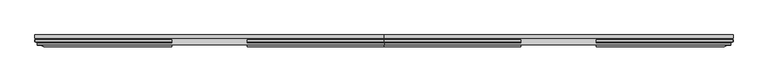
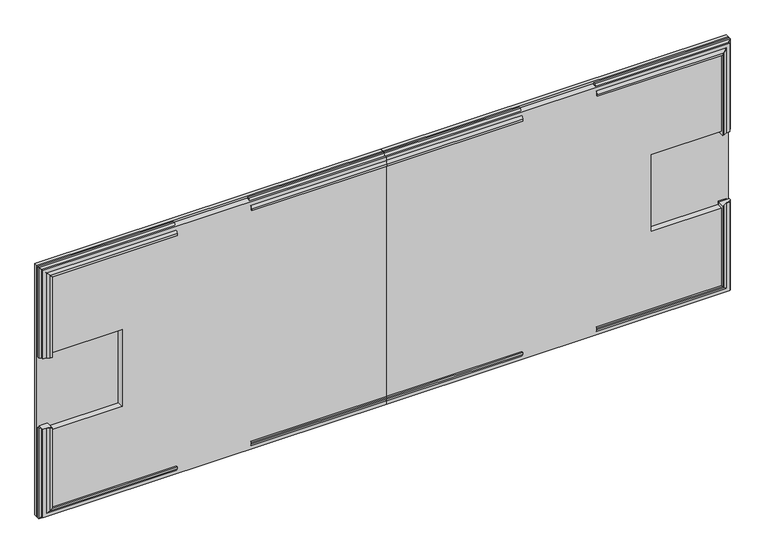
"""IFC4 building model written with IfcOpenShell, lengths in millimetres: proxy geometry, IMPRESS^TABLE 4_2 PC TOP PWR DRAWERS-TOP PARTS SOLID."""

from ifc_helpers import new_model, si_unit, frame, origin, place, context, project, spatial, polyline, outline, extrude, faceted_brep, source, transform, mapped, element, save


def generic_models_06f029d5(model_context):
    return source(origin(), model_context, "Body", "SolidModel", [
        extrude(outline(polyline([(3962.4, 0.0), (1981.2, 0.0), (1981.2, 19.05), (3962.4, 19.05), (3962.4, 0.0)])), frame((0.0, 0.0, -1524.0), z_axis=(0.0, 0.0, 1.0), x_axis=(1.0, 0.0, 0.0)), (0.0, 0.0, 1.0), 1524.0),
        extrude(outline(polyline([(-19.05, -1524.0), (-47.625, -1474.5066482), (-47.625, -1463.675), (-9.525, -1463.675), (-9.525, -1524.0), (-19.05, -1524.0)])), frame((1981.2, 0.0, 0.0), z_axis=(1.0, 0.0, 0.0), x_axis=(0.0, 1.0, 0.0)), (0.0, 0.0, 1.0), 777.08125),
        faceted_brep([(3185.31875, -47.625, -1463.675), (3902.075, -47.625, -1463.675), (3902.075, -9.525, -1463.675), (3185.31875, -9.525, -1463.675), (3185.31875, -9.525, -1524.0), (3962.4, -9.525, -1524.0), (3185.31875, -47.625, -1474.5066482), (3912.9066482, -47.625, -1474.5066482), (3185.31875, -19.05, -1524.0), (3962.4, -19.05, -1524.0)], [[[0, 1, 2, 3]], [[4, 3, 2, 5]], [[0, 6, 7, 1]], [[8, 4, 5, 9]], [[6, 8, 9, 7]], [[7, 9, 5, 2, 1]], [[3, 4, 8, 6, 0]]]),
        extrude(outline(polyline([(-1511.3, 12.7), (-1511.3, 1981.2), (-12.7, 1981.2), (-12.7, 12.7), (-548.48125, 12.7), (-548.48125, 60.325), (-528.6375, 60.325), (-528.6375, 466.725), (-995.3625, 466.725), (-995.3625, 60.325), (-975.51875, 60.325), (-975.51875, 12.7), (-1511.3, 12.7)])), frame((0.0, -38.1, 0.0), z_axis=(0.0, 1.0, 0.0), x_axis=(0.0, 0.0, 1.0)), (0.0, 0.0, 1.0), 38.1),
        faceted_brep([(0.0, -9.525, -548.48125), (60.325, -9.525, -548.48125), (60.325, -47.625, -548.48125), (49.4933518, -47.625, -548.48125), (0.0, -19.05, -548.48125), (60.325, -9.525, -60.325), (60.325, -47.625, -60.325), (0.0, -9.525, 0.0), (49.4933518, -47.625, -49.4933518), (0.0, -19.05, 0.0)], [[[0, 1, 2, 3, 4]], [[1, 5, 6, 2]], [[1, 0, 7, 5]], [[3, 2, 6, 8]], [[0, 4, 9, 7]], [[4, 3, 8, 9]], [[9, 8, 6, 5, 7]]]),
        faceted_brep([(60.325, -47.625, -975.51875), (60.325, -47.625, -1463.675), (60.325, -9.525, -1463.675), (60.325, -9.525, -975.51875), (0.0, -9.525, -975.51875), (0.0, -9.525, -1524.0), (49.4933518, -47.625, -975.51875), (49.4933518, -47.625, -1474.5066482), (0.0, -19.05, -975.51875), (0.0, -19.05, -1524.0)], [[[0, 1, 2, 3]], [[4, 3, 2, 5]], [[0, 6, 7, 1]], [[8, 4, 5, 9]], [[6, 8, 9, 7]], [[7, 9, 5, 2, 1]], [[3, 4, 8, 6, 0]]]),
        faceted_brep([(3185.31875, -47.625, -49.4933518), (3185.31875, -19.05, 0.0), (3185.31875, -9.525, 0.0), (3185.31875, -9.525, -60.325), (3185.31875, -47.625, -60.325), (3962.4, -19.05, 0.0), (3962.4, -9.525, 0.0), (3912.9066482, -47.625, -49.4933518), (3902.075, -47.625, -60.325), (3902.075, -9.525, -60.325)], [[[0, 1, 2, 3, 4]], [[2, 1, 5, 6]], [[1, 0, 7, 5]], [[0, 4, 8, 7]], [[3, 2, 6, 9]], [[3, 9, 8, 4]], [[5, 7, 8, 9, 6]]]),
        extrude(outline(polyline([(-47.625, -49.4933518), (-19.05, 0.0), (-9.525, 0.0), (-9.525, -60.325), (-47.625, -60.325), (-47.625, -49.4933518)])), frame((1981.2, 0.0, 0.0), z_axis=(1.0, 0.0, 0.0), x_axis=(0.0, 1.0, 0.0)), (0.0, 0.0, 1.0), 777.08125),
        extrude(outline(polyline([(-9.525, 0.0), (-9.525, -60.325), (-47.625, -60.325), (-47.625, -49.4933518), (-19.05, 0.0), (-9.525, 0.0)])), frame((1204.11875, 0.0, 0.0), z_axis=(1.0, 0.0, 0.0), x_axis=(0.0, 1.0, 0.0)), (0.0, 0.0, 1.0), 777.08125),
        faceted_brep([(777.08125, -47.625, -60.325), (60.325, -47.625, -60.325), (60.325, -9.525, -60.325), (777.08125, -9.525, -60.325), (777.08125, -9.525, 0.0), (0.0, -9.525, 0.0), (777.08125, -47.625, -49.4933518), (49.4933518, -47.625, -49.4933518), (777.08125, -19.05, 0.0), (0.0, -19.05, 0.0)], [[[0, 1, 2, 3]], [[4, 3, 2, 5]], [[0, 6, 7, 1]], [[8, 4, 5, 9]], [[6, 8, 9, 7]], [[7, 9, 5, 2, 1]], [[3, 4, 8, 6, 0]]]),
        faceted_brep([(777.08125, -9.525, -1524.0), (777.08125, -9.525, -1463.675), (777.08125, -47.625, -1463.675), (777.08125, -47.625, -1474.5066482), (777.08125, -19.05, -1524.0), (0.0, -9.525, -1524.0), (60.325, -9.525, -1463.675), (60.325, -47.625, -1463.675), (49.4933518, -47.625, -1474.5066482), (0.0, -19.05, -1524.0)], [[[0, 1, 2, 3, 4]], [[1, 0, 5, 6]], [[1, 6, 7, 2]], [[3, 2, 7, 8]], [[0, 4, 9, 5]], [[4, 3, 8, 9]], [[9, 8, 7, 6, 5]]]),
        extrude(outline(polyline([(-9.525, -1463.675), (-9.525, -1524.0), (-19.05, -1524.0), (-47.625, -1474.5066482), (-47.625, -1463.675), (-9.525, -1463.675)])), frame((1204.11875, 0.0, 0.0), z_axis=(1.0, 0.0, 0.0), x_axis=(0.0, 1.0, 0.0)), (0.0, 0.0, 1.0), 777.08125),
        faceted_brep([(3912.9066482, -47.625, -975.51875), (3962.4, -19.05, -975.51875), (3962.4, -9.525, -975.51875), (3902.075, -9.525, -975.51875), (3902.075, -47.625, -975.51875), (3962.4, -19.05, -1524.0), (3962.4, -9.525, -1524.0), (3912.9066482, -47.625, -1474.5066482), (3902.075, -9.525, -1463.675), (3902.075, -47.625, -1463.675)], [[[0, 1, 2, 3, 4]], [[2, 1, 5, 6]], [[1, 0, 7, 5]], [[3, 2, 6, 8]], [[0, 4, 9, 7]], [[3, 8, 9, 4]], [[5, 7, 9, 8, 6]]]),
        faceted_brep([(3962.4, -19.05, -548.48125), (3962.4, -9.525, -548.48125), (3962.4, -9.525, 0.0), (3962.4, -19.05, 0.0), (3912.9066482, -47.625, -548.48125), (3912.9066482, -47.625, -49.4933518), (3902.075, -9.525, -548.48125), (3902.075, -9.525, -60.325), (3902.075, -47.625, -548.48125), (3902.075, -47.625, -60.325)], [[[0, 1, 2, 3]], [[4, 0, 3, 5]], [[1, 6, 7, 2]], [[8, 4, 5, 9]], [[8, 9, 7, 6]], [[5, 3, 2, 7, 9]], [[0, 4, 8, 6, 1]]]),
        extrude(outline(polyline([(-12.7, 3949.7), (-12.7, 1981.2), (-1511.3, 1981.2), (-1511.3, 3949.7), (-975.51875, 3949.7), (-975.51875, 3902.075), (-995.3625, 3902.075), (-995.3625, 3495.675), (-528.6375, 3495.675), (-528.6375, 3902.075), (-548.48125, 3902.075), (-548.48125, 3949.7), (-12.7, 3949.7)])), frame((0.0, -38.1, 0.0), z_axis=(0.0, 1.0, 0.0), x_axis=(0.0, 0.0, 1.0)), (0.0, 0.0, 1.0), 38.1),
        extrude(outline(polyline([(1981.2, 0.0), (0.0, 0.0), (0.0, 19.05), (1981.2, 19.05), (1981.2, 0.0)])), frame((0.0, 0.0, -1524.0), z_axis=(0.0, 0.0, 1.0), x_axis=(1.0, 0.0, 0.0)), (0.0, 0.0, 1.0), 1524.0),
    ])


if __name__ == "__main__":
    model = new_model("IFC4")
    model_context = context("Model", 3, world=origin())
    ifc_project = project(units=[si_unit("LENGTHUNIT", "METRE", prefix="MILLI")], contexts=[model_context])
    site = spatial("IfcSite", under=ifc_project)
    building = spatial("IfcBuilding", under=site)
    placement = place(None, origin())
    generic_models_shape = generic_models_06f029d5(model_context)
    element("IfcBuildingElementProxy", 1, Name="IMPRESS^TABLE 4_2 PC TOP PWR DRAWERS-TOP PARTS SOLID", ObjectType="IMPRESS^TABLE 4_2 PC TOP PWR DRAWERS-TOP PARTS SOLID", at=placement, inside=building, context=model_context, shape_type="MappedRepresentation", body=[
        mapped(generic_models_shape, transform((0.0, 0.0, 0.0), x_axis=(1.0, 0.0, 0.0), y_axis=(0.0, 1.0, 0.0), z_axis=(0.0, 0.0, 1.0))),
    ])
    save(model, "model.ifc")
